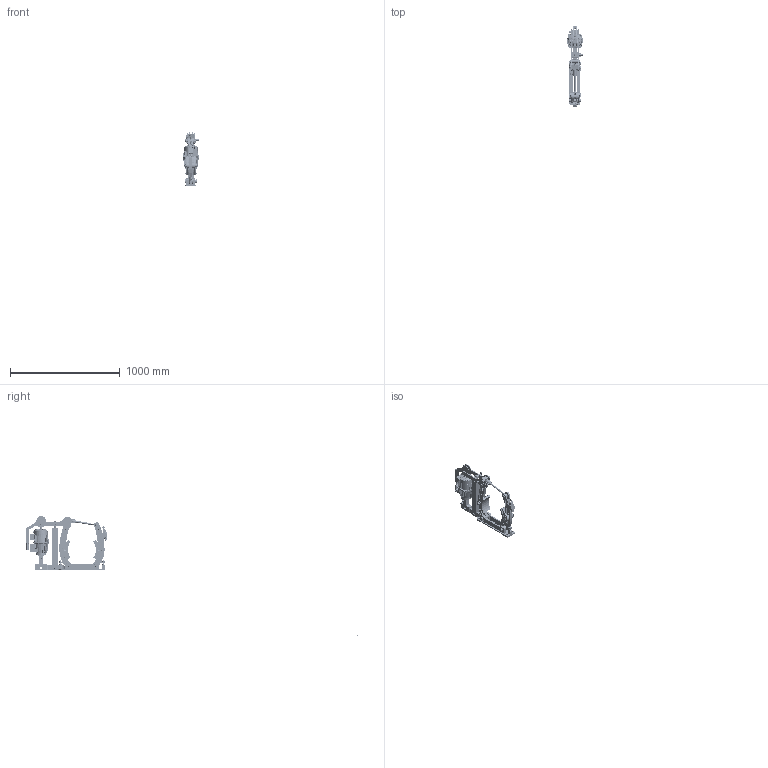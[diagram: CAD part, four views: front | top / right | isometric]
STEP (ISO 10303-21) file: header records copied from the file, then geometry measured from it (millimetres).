
FILE_DESCRIPTION((''),'2;1');
FILE_NAME('4459_254_504_E00001','2018-01-31T',('VORO'),(''),'CREO PARAMETRIC BY PTC INC, 2017170','CREO PARAMETRIC BY PTC INC, 2017170','');
FILE_SCHEMA(('CONFIG_CONTROL_DESIGN'));
Products named in the file (1): 4459_254_504_E00001
Bounding box: 160.1 x 3017.3 x 1086.51 mm (x, y, z)
Surface area: 1430308.5 mm2 (no closed solid volume)
Topology: 0 solids, 4786 shells, 5320 faces, 33114 edges, 31967 vertices
Faces by surface type: plane 2550, cylinder 1880, cone 641, torus 235, bspline 14
Entity records: 553448 total; most frequent: CARTESIAN_POINT 157918, PRESENTATION_STYLE_ASSIGNMENT 43160, DIRECTION 39097, STYLED_ITEM 37840, ORIENTED_EDGE 34166, CURVE_STYLE 33054, EDGE_CURVE 33054, VERTEX_POINT 31950
